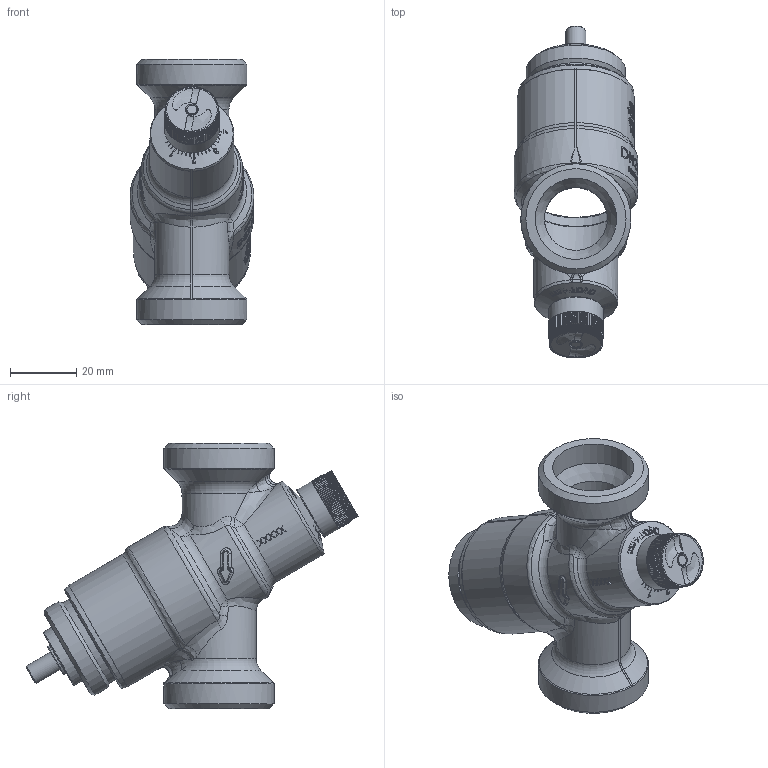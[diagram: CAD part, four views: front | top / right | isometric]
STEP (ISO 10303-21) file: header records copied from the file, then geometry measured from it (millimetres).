
FILE_DESCRIPTION(/* description */ ('Ventil on/off DN20 N/N High'),/* implementation_level */ '2;1');
FILE_NAME(/* name */ 'C:\Users\cbr\Desktop\01-0242.stp',/* time_stamp */ '2019-10-23T10:03:46+02:00',/* author */ ('cbr'),/* organization */ (''),/* preprocessor_version */ 'ST-DEVELOPER v17.2',/* originating_system */ 'Autodesk Inventor 2019',/* authorisation */ '');
FILE_SCHEMA (('AUTOMOTIVE_DESIGN { 1 0 10303 214 3 1 1 }'));
Length unit declared in the file: millimetre
Products named in the file (21): 01-0242; 59768; 901310; 69706; 75609; 68936; 73039-90778; 66591; 66083; 80502; 79168-901310; 73160-901310; 73047; 66592; 80503; 73039-01-02XX; 75315; 67467; 79169; 75612; 91707_01-0242
Assembly tree (22 placements, depth 3):
  01-0242
    59768
    901310
      69706
      75609
      68936
      73039-90778  x2
      66591
      66083
      80502
      79168-901310
      73160-901310
      73047
      66592
      79169
    80503
    73039-01-02XX
    75315
    67467
    79169
    75612
    91707_01-0242
Bounding box: 37.35 x 100.09 x 80.1 mm (x, y, z)
Volume: 40902.9 mm3; surface area: 40419.4 mm2
Topology: 112 solids, 112 shells, 2538 faces, 6751 edges, 4467 vertices
Faces by surface type: plane 1112, bspline 753, cylinder 457, cone 130, torus 76, sphere 10
Full cylindrical faces by diameter (mm): 2 x1, 3 x1, 3.1 x2, 3.2 x2, 3.3 x1, 4 x2, 6 x3, 6.1 x2, 6.2 x5, 6.3 x1, 7 x1, 7.4 x1, 7.5 x2, 8 x1, 9.3 x1, 9.5 x1, 9.6 x2, 10 x3, 11 x2, 11.5 x1, 12 x2, 14.5 x1, 15.6 x1, 16.5 x1, 18.6 x1, 19 x2, 21 x1, 22 x1, 22.3 x1, 23.5 x1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
Entity records: 106580 total; most frequent: CARTESIAN_POINT 46819, ORIENTED_EDGE 13344, DIRECTION 10091, EDGE_CURVE 6672, VERTEX_POINT 4426, AXIS2_PLACEMENT_3D 3401, LINE 3289, VECTOR 3289
